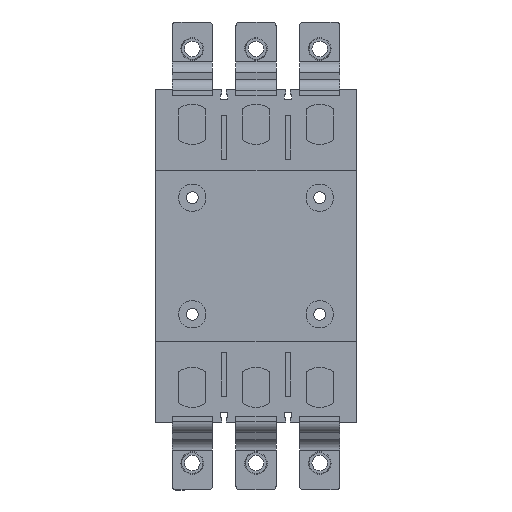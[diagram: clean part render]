
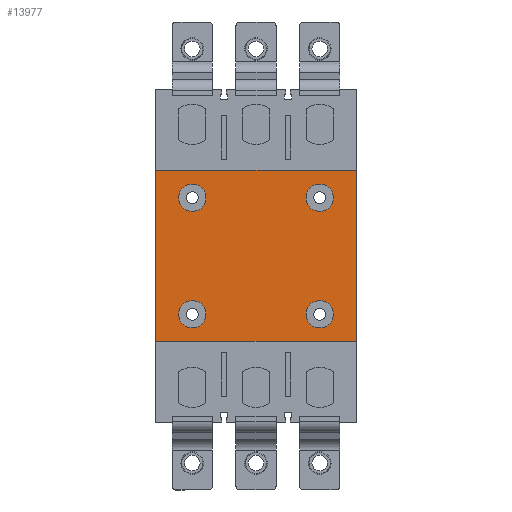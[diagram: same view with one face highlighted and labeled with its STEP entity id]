
A CAD part, top view. The second image highlights one B-rep face of the part: STEP entity #13977.
In plain terms, the highlighted planar face has unit normal (0, 0, 1) as drawn and (0, 1, 0) by its records, which use the part's own axes.
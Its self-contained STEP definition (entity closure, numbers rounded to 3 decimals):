
#45 = ORIENTED_EDGE ( 'NONE', *, *, #5607, .F. ) ;
#347 = ORIENTED_EDGE ( 'NONE', *, *, #15621, .F. ) ;
#400 = FACE_BOUND ( 'NONE', #8031, .T. ) ;
#475 = AXIS2_PLACEMENT_3D ( 'NONE', #8448, #16075, #12420 ) ;
#482 = CARTESIAN_POINT ( 'NONE',  ( -47., 16.7, -55. ) ) ;
#803 = EDGE_CURVE ( 'NONE', #4588, #5206, #12155, .T. ) ;
#1166 = LINE ( 'NONE', #15262, #15517 ) ;
#1348 = CARTESIAN_POINT ( 'NONE',  ( -24.5, 16.7, 35. ) ) ;
#1478 = FACE_OUTER_BOUND ( 'NONE', #11215, .T. ) ;
#1561 = DIRECTION ( 'NONE',  ( 0., 0., -1. ) ) ;
#1725 = EDGE_CURVE ( 'NONE', #15750, #4800, #8364, .T. ) ;
#1763 = CARTESIAN_POINT ( 'NONE',  ( 39.5, 16.7, -35. ) ) ;
#1814 = CARTESIAN_POINT ( 'NONE',  ( 91.3, 16.7, 55. ) ) ;
#1816 = ORIENTED_EDGE ( 'NONE', *, *, #10208, .F. ) ;
#1937 = DIRECTION ( 'NONE',  ( 0., 1., 0. ) ) ;
#2008 = CARTESIAN_POINT ( 'NONE',  ( -32., 16.7, 35. ) ) ;
#2017 = ORIENTED_EDGE ( 'NONE', *, *, #10317, .F. ) ;
#2083 = AXIS2_PLACEMENT_3D ( 'NONE', #13084, #8041, #10750 ) ;
#2475 = VERTEX_POINT ( 'NONE', #6447 ) ;
#2791 = CARTESIAN_POINT ( 'NONE',  ( -32., 16.7, -35. ) ) ;
#3049 = FACE_BOUND ( 'NONE', #4617, .T. ) ;
#3396 = DIRECTION ( 'NONE',  ( 1., 0., 0. ) ) ;
#3597 = DIRECTION ( 'NONE',  ( 1., 0., 0. ) ) ;
#3620 = CARTESIAN_POINT ( 'NONE',  ( -24.5, 16.7, -35. ) ) ;
#3905 = ORIENTED_EDGE ( 'NONE', *, *, #5891, .F. ) ;
#3932 = AXIS2_PLACEMENT_3D ( 'NONE', #4056, #6532, #1561 ) ;
#4056 = CARTESIAN_POINT ( 'NONE',  ( 47., 16.7, -29. ) ) ;
#4087 = DIRECTION ( 'NONE',  ( 0., 0., 1. ) ) ;
#4113 = ORIENTED_EDGE ( 'NONE', *, *, #803, .F. ) ;
#4148 = EDGE_CURVE ( 'NONE', #6571, #8868, #7332, .T. ) ;
#4227 = CIRCLE ( 'NONE', #14278, 7.5 ) ;
#4231 = LINE ( 'NONE', #1814, #16223 ) ;
#4515 = VERTEX_POINT ( 'NONE', #8035 ) ;
#4554 = ORIENTED_EDGE ( 'NONE', *, *, #10415, .F. ) ;
#4588 = VERTEX_POINT ( 'NONE', #3620 ) ;
#4617 = EDGE_LOOP ( 'NONE', ( #45, #15226 ) ) ;
#4800 = VERTEX_POINT ( 'NONE', #16304 ) ;
#4812 = CIRCLE ( 'NONE', #6127, 7.5 ) ;
#5206 = VERTEX_POINT ( 'NONE', #11620 ) ;
#5554 = CARTESIAN_POINT ( 'NONE',  ( 91.3, 16.7, -55. ) ) ;
#5607 = EDGE_CURVE ( 'NONE', #7244, #2475, #15067, .T. ) ;
#5806 = DIRECTION ( 'NONE',  ( -1., 0., 0. ) ) ;
#5891 = EDGE_CURVE ( 'NONE', #5206, #4588, #4227, .T. ) ;
#5955 = CARTESIAN_POINT ( 'NONE',  ( 32., 16.7, 35. ) ) ;
#6042 = DIRECTION ( 'NONE',  ( 0., 1., 0. ) ) ;
#6090 = CARTESIAN_POINT ( 'NONE',  ( 32., 16.7, 35. ) ) ;
#6127 = AXIS2_PLACEMENT_3D ( 'NONE', #2008, #1937, #7152 ) ;
#6447 = CARTESIAN_POINT ( 'NONE',  ( -39.5, 16.7, 35. ) ) ;
#6451 = DIRECTION ( 'NONE',  ( -1., 0., 0. ) ) ;
#6475 = CARTESIAN_POINT ( 'NONE',  ( 24.5, 16.7, -35. ) ) ;
#6532 = DIRECTION ( 'NONE',  ( 0., -1., 0. ) ) ;
#6571 = VERTEX_POINT ( 'NONE', #1763 ) ;
#7152 = DIRECTION ( 'NONE',  ( -1., 0., 0. ) ) ;
#7221 = CARTESIAN_POINT ( 'NONE',  ( -47., 16.7, 55. ) ) ;
#7244 = VERTEX_POINT ( 'NONE', #1348 ) ;
#7332 = CIRCLE ( 'NONE', #475, 7.5 ) ;
#7852 = PLANE ( 'NONE',  #3932 ) ;
#7960 = CIRCLE ( 'NONE', #10606, 7.5 ) ;
#8031 = EDGE_LOOP ( 'NONE', ( #15716, #4554 ) ) ;
#8035 = CARTESIAN_POINT ( 'NONE',  ( 47., 16.7, -55. ) ) ;
#8041 = DIRECTION ( 'NONE',  ( 0., 1., 0. ) ) ;
#8364 = CIRCLE ( 'NONE', #13655, 7.5 ) ;
#8448 = CARTESIAN_POINT ( 'NONE',  ( 32., 16.7, -35. ) ) ;
#8572 = VERTEX_POINT ( 'NONE', #11464 ) ;
#8706 = EDGE_LOOP ( 'NONE', ( #4113, #3905 ) ) ;
#8868 = VERTEX_POINT ( 'NONE', #6475 ) ;
#9071 = EDGE_LOOP ( 'NONE', ( #347, #9732 ) ) ;
#9104 = FACE_BOUND ( 'NONE', #9071, .T. ) ;
#9221 = LINE ( 'NONE', #11713, #10279 ) ;
#9351 = ORIENTED_EDGE ( 'NONE', *, *, #13659, .T. ) ;
#9397 = EDGE_CURVE ( 'NONE', #2475, #7244, #4812, .T. ) ;
#9442 = DIRECTION ( 'NONE',  ( 0., 1., 0. ) ) ;
#9610 = CARTESIAN_POINT ( 'NONE',  ( -32., 16.7, -35. ) ) ;
#9692 = ORIENTED_EDGE ( 'NONE', *, *, #12229, .T. ) ;
#9732 = ORIENTED_EDGE ( 'NONE', *, *, #4148, .F. ) ;
#9897 = DIRECTION ( 'NONE',  ( 0., 1., 0. ) ) ;
#10208 = EDGE_CURVE ( 'NONE', #15830, #4515, #14014, .T. ) ;
#10255 = DIRECTION ( 'NONE',  ( 0., 1., 0. ) ) ;
#10279 = VECTOR ( 'NONE', #4087, 1000. ) ;
#10307 = AXIS2_PLACEMENT_3D ( 'NONE', #9610, #6042, #5806 ) ;
#10317 = EDGE_CURVE ( 'NONE', #8572, #15219, #4231, .T. ) ;
#10415 = EDGE_CURVE ( 'NONE', #4800, #15750, #13316, .T. ) ;
#10606 = AXIS2_PLACEMENT_3D ( 'NONE', #13414, #9442, #3396 ) ;
#10750 = DIRECTION ( 'NONE',  ( -1., 0., 0. ) ) ;
#11001 = DIRECTION ( 'NONE',  ( 0., 1., 0. ) ) ;
#11215 = EDGE_LOOP ( 'NONE', ( #9692, #1816, #9351, #2017 ) ) ;
#11357 = DIRECTION ( 'NONE',  ( 0., 0., -1. ) ) ;
#11464 = CARTESIAN_POINT ( 'NONE',  ( 47., 16.7, 55. ) ) ;
#11620 = CARTESIAN_POINT ( 'NONE',  ( -39.5, 16.7, -35. ) ) ;
#11713 = CARTESIAN_POINT ( 'NONE',  ( -47., 16.7, 29. ) ) ;
#11771 = DIRECTION ( 'NONE',  ( -1., 0., 0. ) ) ;
#12155 = CIRCLE ( 'NONE', #10307, 7.5 ) ;
#12229 = EDGE_CURVE ( 'NONE', #8572, #4515, #1166, .T. ) ;
#12420 = DIRECTION ( 'NONE',  ( 1., 0., 0. ) ) ;
#12785 = VECTOR ( 'NONE', #13251, 1000. ) ;
#12835 = FACE_BOUND ( 'NONE', #8706, .T. ) ;
#13084 = CARTESIAN_POINT ( 'NONE',  ( -32., 16.7, 35. ) ) ;
#13251 = DIRECTION ( 'NONE',  ( 1., 0., 0. ) ) ;
#13316 = CIRCLE ( 'NONE', #14369, 7.5 ) ;
#13414 = CARTESIAN_POINT ( 'NONE',  ( 32., 16.7, -35. ) ) ;
#13655 = AXIS2_PLACEMENT_3D ( 'NONE', #6090, #9897, #3597 ) ;
#13659 = EDGE_CURVE ( 'NONE', #15830, #15219, #9221, .T. ) ;
#13977 = ADVANCED_FACE ( 'NONE', ( #3049, #12835, #9104, #1478, #400 ), #7852, .F. ) ;
#14014 = LINE ( 'NONE', #5554, #12785 ) ;
#14278 = AXIS2_PLACEMENT_3D ( 'NONE', #2791, #10255, #6451 ) ;
#14369 = AXIS2_PLACEMENT_3D ( 'NONE', #5955, #11001, #16064 ) ;
#15067 = CIRCLE ( 'NONE', #2083, 7.5 ) ;
#15172 = CARTESIAN_POINT ( 'NONE',  ( 24.5, 16.7, 35. ) ) ;
#15219 = VERTEX_POINT ( 'NONE', #7221 ) ;
#15226 = ORIENTED_EDGE ( 'NONE', *, *, #9397, .F. ) ;
#15262 = CARTESIAN_POINT ( 'NONE',  ( 47., 16.7, -29. ) ) ;
#15517 = VECTOR ( 'NONE', #11357, 1000. ) ;
#15621 = EDGE_CURVE ( 'NONE', #8868, #6571, #7960, .T. ) ;
#15716 = ORIENTED_EDGE ( 'NONE', *, *, #1725, .F. ) ;
#15750 = VERTEX_POINT ( 'NONE', #15172 ) ;
#15830 = VERTEX_POINT ( 'NONE', #482 ) ;
#16064 = DIRECTION ( 'NONE',  ( 1., 0., 0. ) ) ;
#16075 = DIRECTION ( 'NONE',  ( 0., 1., 0. ) ) ;
#16223 = VECTOR ( 'NONE', #11771, 1000. ) ;
#16304 = CARTESIAN_POINT ( 'NONE',  ( 39.5, 16.7, 35. ) ) ;
